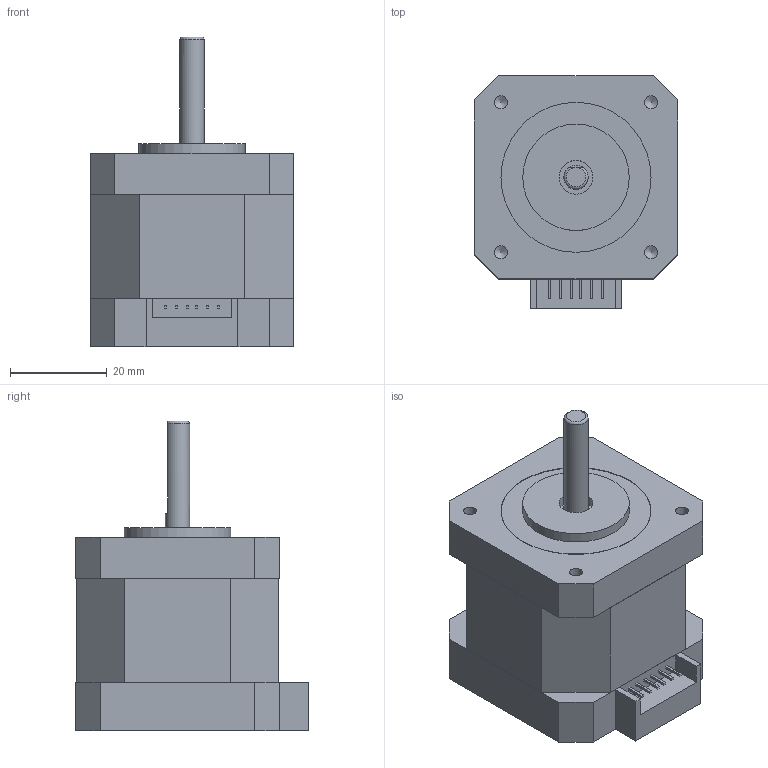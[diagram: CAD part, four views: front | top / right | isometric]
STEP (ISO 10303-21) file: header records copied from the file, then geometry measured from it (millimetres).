
FILE_DESCRIPTION(/* description */ (''),/* implementation_level */ '2;1');
FILE_NAME(/* name */ 'STP-43D2119.stp',/* time_stamp */ '2018-08-13T11:50:33+08:00',/* author */ (''),/* organization */ (''),/* preprocessor_version */ 'ST-DEVELOPER v11',/* originating_system */ 'SIEMENS UGS NX 6.0',/* authorisation */ '');
FILE_SCHEMA (('CONFIG_CONTROL_DESIGN'));
Length unit declared in the file: millimetre
Products named in the file (1): STP-43D2119
Bounding box: 42 x 48 x 64 mm (x, y, z)
Volume: 66788.5 mm3; surface area: 11082.7 mm2
Topology: 1 solids, 1 shells, 155 faces, 393 edges, 263 vertices
Faces by surface type: plane 131, cylinder 15, cone 8, torus 1
Full cylindrical faces by diameter (mm): 2.7 x4, 4.414 x4, 5 x2, 7 x2, 8.5 x1, 22 x1, 31 x1
Entity records: 4447 total; most frequent: CARTESIAN_POINT 769, ORIENTED_EDGE 706, DIRECTION 699, EDGE_CURVE 353, LINE 315, VECTOR 315, VERTEX_POINT 250, EDGE_LOOP 201
